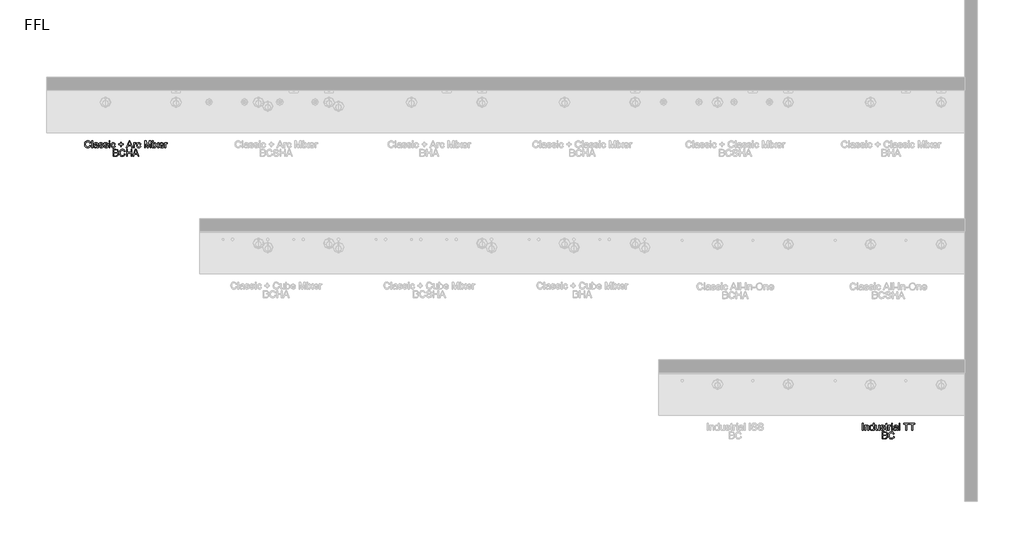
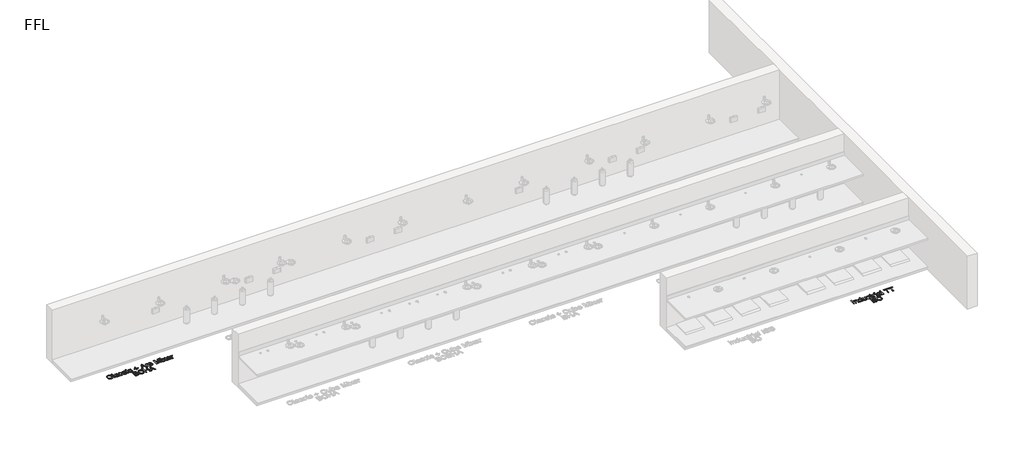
# One storey, part 5 of 13: 2 proxies.
"""IFC4 building model written with IfcOpenShell, lengths in millimetres."""

from ifc_helpers import new_model, si_unit, origin, origin_with_axes, place, context, project, spatial, polyline, outline, extrude, element, save

model = new_model("IFC4")

# Units and contexts
model_context = context("Model", 3, world=origin())
ifc_project = project(units=[si_unit("LENGTHUNIT", "METRE", prefix="MILLI")], contexts=[model_context])

# Site, building, storey
site = spatial("IfcSite", under=ifc_project)
building = spatial("IfcBuilding", under=site)
storey = spatial("IfcBuildingStorey", under=building, Name="FFL", Elevation=0.0)

# Proxies
placement = place(None, origin())
element("IfcBuildingElementProxy", 1, Name="150mm Arial", ObjectType="150mm Arial", at=placement, inside=storey, context=model_context, shape_type="SweptSolid", body=[
    extrude(outline(polyline([(10353.2380409, -2376.1981691), (10353.2380409, -2228.5058614), (10371.6995794, -2228.5058614), (10371.6995794, -2376.1981691), (10353.2380409, -2376.1981691)])), origin_with_axes(), (0.0, 0.0, 1.0), 5.0),
    extrude(outline(polyline([(10406.314964, -2376.1981691), (10406.314964, -2267.7366307), (10424.7765025, -2267.7366307), (10424.7765025, -2282.8808614), (10438.893089, -2269.7919191), (10458.1659255, -2265.4289383), (10475.5998198, -2268.9445633), (10487.4988582, -2278.1753326), (10493.033714, -2291.7510537), (10494.0072717, -2309.5996114), (10494.0072717, -2376.1981691), (10475.5457332, -2376.1981691), (10475.5457332, -2312.0875922), (10473.4183294, -2295.7534576), (10465.9003005, -2287.1176403), (10453.2260217, -2283.8904768), (10442.4132212, -2285.7023758), (10433.1959736, -2291.138073), (10426.8813703, -2301.6398758), (10424.7765025, -2318.6500922), (10424.7765025, -2376.1981691), (10406.314964, -2376.1981691)])), origin_with_axes(), (0.0, 0.0, 1.0), 5.0),
    extrude(outline(polyline([(10586.314964, -2376.1981691), (10586.314964, -2358.7823037), (10574.1004207, -2373.574972), (10557.2164063, -2378.5058614), (10545.2813102, -2376.7210057), (10534.3558294, -2371.3664383), (10525.1070313, -2362.8162581), (10518.2019832, -2351.4445633), (10513.9021034, -2337.7110898), (10512.4688102, -2322.075573), (10517.7512621, -2292.6885537), (10524.3498198, -2281.0329047), (10533.580589, -2272.4601883), (10544.744952, -2267.1867508), (10557.1442909, -2265.4289383), (10574.1635217, -2270.4589864), (10586.314964, -2283.5298999), (10586.314964, -2228.5058614), (10604.7765025, -2228.5058614), (10604.7765025, -2376.1981691), (10586.314964, -2376.1981691)]), holes=[polyline([(10530.9303486, -2322.0034576), (10533.0126803, -2338.7026763), (10539.2596755, -2350.5791787), (10548.3371996, -2357.6780369), (10558.9111178, -2360.044323), (10569.4805289, -2357.78621), (10578.3281852, -2351.011871), (10584.3182693, -2339.5951042), (10586.314964, -2323.4097076), (10584.2822116, -2305.7143951), (10578.1839544, -2293.4457653), (10569.1109376, -2286.2792989), (10558.1539063, -2283.8904768), (10547.471815, -2286.1846475), (10538.7188102, -2293.0671595), (10532.877464, -2304.8895754), (10530.9303486, -2322.0034576)])]), origin_with_axes(), (0.0, 0.0, 1.0), 5.0),
    extrude(outline(polyline([(10701.6995794, -2376.1981691), (10701.6995794, -2357.5563422), (10687.2404448, -2373.2684816), (10668.3822717, -2378.5058614), (10651.0204928, -2374.8279768), (10639.049339, -2365.5972076), (10633.5505409, -2352.0034576), (10632.4688102, -2334.839996), (10632.4688102, -2267.7366307), (10650.9303486, -2267.7366307), (10650.9303486, -2326.1500922), (10652.0481371, -2344.9722076), (10659.3498198, -2356.0238903), (10673.1058294, -2360.044323), (10688.5204928, -2355.933746), (10698.7067909, -2344.7378326), (10701.6995794, -2324.1669191), (10701.6995794, -2267.7366307), (10720.1611178, -2267.7366307), (10720.1611178, -2376.1981691), (10701.6995794, -2376.1981691)])), origin_with_axes(), (0.0, 0.0, 1.0), 5.0),
    extrude(outline(polyline([(10738.6226563, -2343.8904768), (10757.0841948, -2341.5827845), (10759.9958534, -2349.4794191), (10765.6298678, -2355.2847076), (10785.2091948, -2360.044323), (10804.0313102, -2355.6813422), (10810.1611178, -2345.4409576), (10803.9952525, -2337.1476883), (10784.9928486, -2331.8832653), (10757.1923678, -2322.8508133), (10745.0589544, -2312.3039383), (10740.9303486, -2297.4121114), (10744.2476563, -2283.6561018), (10753.2981371, -2273.1452845), (10765.0349159, -2267.6825441), (10780.9183294, -2265.4289383), (10803.3822717, -2269.0527364), (10817.6611178, -2278.8604287), (10824.0072717, -2295.4289383), (10805.5457332, -2297.7366307), (10798.6046275, -2287.5503326), (10782.3606371, -2283.8904768), (10764.6923678, -2287.388073), (10759.3918871, -2295.5371114), (10761.5914063, -2300.9097076), (10768.4784255, -2304.9842268), (10784.3798678, -2308.9145153), (10811.4772236, -2317.6044191), (10824.0613582, -2327.4481691), (10828.6226563, -2343.4938422), (10823.268089, -2361.1621114), (10807.8173678, -2373.980621), (10784.9567909, -2378.5058614), (10766.3420073, -2376.324371), (10752.7572717, -2369.7798999), (10743.6887621, -2358.9445633), (10738.6226563, -2343.8904768)])), origin_with_axes(), (0.0, 0.0, 1.0), 5.0),
    extrude(outline(polyline([(10888.6226563, -2360.8015345), (10890.9303486, -2376.7390345), (10877.1202525, -2378.5058614), (10861.6515025, -2375.4409576), (10853.9351563, -2367.4000922), (10851.6995794, -2346.450573), (10851.6995794, -2286.1981691), (10837.8534255, -2286.1981691), (10837.8534255, -2267.7366307), (10851.6995794, -2267.7366307), (10851.6995794, -2241.3784576), (10870.1611178, -2230.5250922), (10870.1611178, -2267.7366307), (10888.6226563, -2267.7366307), (10888.6226563, -2286.1981691), (10870.1611178, -2286.1981691), (10870.1611178, -2345.9097076), (10871.1346755, -2355.4289383), (10874.2897236, -2358.8003326), (10880.5817909, -2360.044323), (10888.6226563, -2360.8015345)])), origin_with_axes(), (0.0, 0.0, 1.0), 5.0),
    extrude(outline(polyline([(10907.0841948, -2376.1981691), (10907.0841948, -2267.7366307), (10923.2380409, -2267.7366307), (10923.2380409, -2283.7823037), (10934.7043871, -2268.9986499), (10946.2428486, -2265.4289383), (10964.7765025, -2271.1260537), (10958.6106371, -2287.6765345), (10945.6298678, -2283.8904768), (10935.1911659, -2287.5323037), (10928.5385217, -2297.6284576), (10925.5457332, -2319.1909576), (10925.5457332, -2376.1981691), (10907.0841948, -2376.1981691)])), origin_with_axes(), (0.0, 0.0, 1.0), 5.0),
    extrude(outline(polyline([(10976.314964, -2376.1981691), (10976.314964, -2267.7366307), (10994.7765025, -2267.7366307), (10994.7765025, -2376.1981691), (10976.314964, -2376.1981691)])), origin_with_axes(), (0.0, 0.0, 1.0), 5.0),
    extrude(outline(polyline([(10976.314964, -2246.9673999), (10976.314964, -2228.5058614), (10994.7765025, -2228.5058614), (10994.7765025, -2246.9673999), (10976.314964, -2246.9673999)])), origin_with_axes(), (0.0, 0.0, 1.0), 5.0),
    extrude(outline(polyline([(11091.6995794, -2362.3520153), (11073.7969352, -2374.8640345), (11054.0192909, -2378.5058614), (11038.5911058, -2376.3153566), (11027.2103967, -2369.7438422), (11020.1926683, -2359.7648758), (11017.8534255, -2347.3520153), (11021.3870794, -2332.7486499), (11030.6719352, -2322.1476883), (11043.5986178, -2316.089996), (11059.5721755, -2313.3135537), (11091.5914063, -2306.9673999), (11091.6995794, -2302.856823), (11090.4285457, -2294.6176403), (11086.6154448, -2289.2270153), (11078.0878005, -2285.2246114), (11066.2067909, -2283.8904768), (11047.5289063, -2287.4421595), (11038.6226563, -2300.044323), (11020.1611178, -2297.7366307), (11028.1478967, -2279.7077845), (11044.2296275, -2269.1428807), (11068.5865986, -2265.4289383), (11090.9603967, -2268.7101883), (11103.5986178, -2276.949371), (11109.2596755, -2289.4794191), (11110.1611178, -2305.6332653), (11110.1611178, -2328.6020153), (11111.0986178, -2360.6753326), (11114.7765025, -2376.1981691), (11096.314964, -2376.1981691), (11091.6995794, -2362.3520153)]), holes=[polyline([(11091.6995794, -2325.4289383), (11061.9159255, -2331.089996), (11046.0325121, -2334.0827845), (11038.8390025, -2338.950573), (11036.314964, -2346.0539383), (11041.8137621, -2356.0419191), (11057.9495794, -2360.044323), (11076.627464, -2355.6272557), (11088.6707332, -2344.9361499), (11091.5914063, -2330.6573037), (11091.6995794, -2325.4289383)])]), origin_with_axes(), (0.0, 0.0, 1.0), 5.0),
    extrude(outline(polyline([(11135.5457332, -2376.1981691), (11135.5457332, -2228.5058614), (11154.0072717, -2228.5058614), (11154.0072717, -2376.1981691), (11135.5457332, -2376.1981691)])), origin_with_axes(), (0.0, 0.0, 1.0), 5.0),
    extrude(outline(polyline([(11278.6226563, -2376.1981691), (11278.6226563, -2246.9673999), (11230.1611178, -2246.9673999), (11230.1611178, -2228.5058614), (11345.5457332, -2228.5058614), (11345.5457332, -2246.9673999), (11297.0841948, -2246.9673999), (11297.0841948, -2376.1981691), (11278.6226563, -2376.1981691)])), origin_with_axes(), (0.0, 0.0, 1.0), 5.0),
    extrude(outline(polyline([(11403.2380409, -2376.1981691), (11403.2380409, -2246.9673999), (11354.7765025, -2246.9673999), (11354.7765025, -2228.5058614), (11470.1611178, -2228.5058614), (11470.1611178, -2246.9673999), (11421.6995794, -2246.9673999), (11421.6995794, -2376.1981691), (11403.2380409, -2376.1981691)])), origin_with_axes(), (0.0, 0.0, 1.0), 5.0),
    extrude(outline(polyline([(10779.0072717, -2558.5058614), (10779.0072717, -2410.8135537), (10835.3654448, -2410.8135537), (10862.9676082, -2415.1585057), (10872.2434496, -2420.6708254), (10879.2656852, -2428.5178807), (10885.1611178, -2447.4121114), (10880.2031852, -2464.6657172), (10865.221214, -2477.7366307), (10875.682452, -2483.199371), (10883.4123198, -2491.5106691), (10888.1854568, -2502.1206451), (10889.7765025, -2514.4794191), (10885.4315505, -2534.3291787), (10874.6683294, -2548.4637941), (10858.6046275, -2555.9637941), (10834.9327525, -2558.5058614), (10779.0072717, -2558.5058614)]), holes=[polyline([(10797.4688102, -2540.044323), (10835.3293871, -2540.044323), (10849.0313102, -2539.3231691), (10860.6238582, -2535.3027364), (10868.3041467, -2527.0996114), (10871.314964, -2514.6597076), (10867.7813102, -2500.308746), (10856.3329928, -2491.7450441), (10833.5265025, -2489.2750922), (10797.4688102, -2489.2750922), (10797.4688102, -2540.044323)]), polyline([(10797.4688102, -2470.8135537), (10831.1827525, -2470.8135537), (10850.8702525, -2469.2270153), (10862.7152044, -2462.3940826), (10866.6995794, -2450.3688422), (10862.9856371, -2438.325573), (10852.3486178, -2431.2041787), (10828.6226563, -2429.2750922), (10797.4688102, -2429.2750922), (10797.4688102, -2470.8135537)])]), origin_with_axes(), (0.0, 0.0, 1.0), 5.0),
    extrude(outline(polyline([(11019.0072717, -2506.0058614), (11037.4688102, -2510.7654768), (11028.9501803, -2532.2783975), (11015.5817909, -2547.9950441), (10998.0216948, -2557.6089263), (10976.9279448, -2560.8135537), (10955.5141828, -2558.3886739), (10938.5084736, -2551.1140345), (10925.4736178, -2539.2420393), (10915.9724159, -2523.0250922), (10910.1716347, -2503.9595874), (10908.2380409, -2483.5419191), (10910.4240385, -2462.0064624), (10916.9820313, -2443.4097076), (10927.5694712, -2428.3420994), (10941.8438102, -2417.3940826), (10958.7728967, -2410.7279167), (10977.3245794, -2408.5058614), (10997.5664664, -2411.3814624), (11014.3017428, -2420.0082653), (11027.0075722, -2433.8544191), (11035.1611178, -2452.388073), (11016.6995794, -2456.7871114), (11010.299339, -2443.3240706), (11001.5553486, -2434.0887941), (10990.3594352, -2428.7477484), (10976.6034255, -2426.9673999), (10960.7470553, -2428.9415585), (10947.721214, -2434.8640345), (10937.8368991, -2444.1128326), (10931.4051082, -2456.0659576), (10926.6995794, -2483.5058614), (10932.2704928, -2515.308746), (10939.3918871, -2527.1852484), (10949.6142428, -2535.6272557), (10961.869351, -2540.6708254), (10975.0890025, -2542.3520153), (10990.4991587, -2540.0623518), (11003.3402044, -2533.1933614), (11013.0352164, -2521.8171595), (11019.0072717, -2506.0058614)])), origin_with_axes(), (0.0, 0.0, 1.0), 5.0),
])
element("IfcBuildingElementProxy", 2, Name="150mm Arial", ObjectType="150mm Arial", at=placement, inside=storey, context=model_context, shape_type="SweptSolid", body=[
    extrude(outline(polyline([(-6051.580362, 3676.3018309), (-6033.1188235, 3671.5422155), (-6041.6374533, 3650.0292948), (-6055.0058427, 3634.3126482), (-6072.5659389, 3624.698766), (-6093.6596889, 3621.4941386), (-6115.0734509, 3623.9190184), (-6132.07916, 3631.1936578), (-6145.1140158, 3643.065653), (-6154.6152177, 3659.2826001), (-6160.415999, 3678.3481049), (-6162.3495927, 3698.7657732), (-6160.1635951, 3720.3012299), (-6153.6056024, 3738.8979847), (-6143.0181625, 3753.9655929), (-6128.7438235, 3764.9136097), (-6111.814737, 3771.5797756), (-6093.2630543, 3773.8018309), (-6073.0211673, 3770.9262299), (-6056.2858908, 3762.299427), (-6043.5800615, 3748.4532732), (-6035.4265158, 3729.9196193), (-6053.8880543, 3725.5205809), (-6060.2882947, 3738.9836217), (-6069.032285, 3748.2188982), (-6080.2281985, 3753.5599439), (-6093.9842081, 3755.3402924), (-6109.8405783, 3753.3661338), (-6122.8664197, 3747.4436578), (-6132.7507346, 3738.1948597), (-6139.1825254, 3726.2417347), (-6143.8880543, 3698.8018309), (-6138.3171408, 3666.9989463), (-6131.1957466, 3655.1224439), (-6120.9733908, 3646.6804367), (-6108.7182826, 3641.6368669), (-6095.4986312, 3639.955677), (-6080.088475, 3642.2453405), (-6067.2474293, 3649.1143309), (-6057.5524173, 3660.4905328), (-6051.580362, 3676.3018309)])), origin_with_axes(), (0.0, 0.0, 1.0), 5.0),
    extrude(outline(polyline([(-6010.0419004, 3623.8018309), (-6010.0419004, 3771.4941386), (-5991.580362, 3771.4941386), (-5991.580362, 3623.8018309), (-6010.0419004, 3623.8018309)])), origin_with_axes(), (0.0, 0.0, 1.0), 5.0),
    extrude(outline(polyline([(-5894.657285, 3637.6479847), (-5912.5599293, 3625.1359655), (-5932.3375735, 3621.4941386), (-5947.7657586, 3623.6846434), (-5959.1464677, 3630.2561578), (-5966.1641961, 3640.2351242), (-5968.5034389, 3652.6479847), (-5964.969785, 3667.2513501), (-5955.6849293, 3677.8523117), (-5942.7582466, 3683.910004), (-5926.7846889, 3686.6864463), (-5894.7654581, 3693.0326001), (-5894.657285, 3697.143177), (-5895.9283187, 3705.3823597), (-5899.7414197, 3710.7729847), (-5908.2690639, 3714.7753886), (-5920.1500735, 3716.1095232), (-5938.8279581, 3712.5578405), (-5947.7342081, 3699.955677), (-5966.1957466, 3702.2633693), (-5958.2089677, 3720.2922155), (-5942.127237, 3730.8571193), (-5917.7702658, 3734.5710617), (-5895.3964677, 3731.2898117), (-5882.7582466, 3723.050629), (-5877.0971889, 3710.5205809), (-5876.1957466, 3694.3667347), (-5876.1957466, 3671.3979847), (-5875.2582466, 3639.3246674), (-5871.580362, 3623.8018309), (-5890.0419004, 3623.8018309), (-5894.657285, 3637.6479847)]), holes=[polyline([(-5894.657285, 3674.5710617), (-5924.4409389, 3668.910004), (-5940.3243524, 3665.9172155), (-5947.517862, 3661.049427), (-5950.0419004, 3653.9460617), (-5944.5431024, 3643.9580809), (-5928.407285, 3639.955677), (-5909.7294004, 3644.3727443), (-5897.6861312, 3655.0638501), (-5894.7654581, 3669.3426963), (-5894.657285, 3674.5710617)])]), origin_with_axes(), (0.0, 0.0, 1.0), 5.0),
    extrude(outline(polyline([(-5857.7342081, 3656.1095232), (-5839.2726697, 3658.4172155), (-5836.361011, 3650.5205809), (-5830.7269966, 3644.7152924), (-5811.1476697, 3639.955677), (-5792.3255543, 3644.3186578), (-5786.1957466, 3654.5590424), (-5792.361612, 3662.8523117), (-5811.3640158, 3668.1167347), (-5839.1644966, 3677.1491867), (-5851.29791, 3687.6960617), (-5855.4265158, 3702.5878886), (-5852.1092081, 3716.3438982), (-5843.0587274, 3726.8547155), (-5831.3219485, 3732.3174559), (-5815.438535, 3734.5710617), (-5792.9745927, 3730.9472636), (-5778.6957466, 3721.1395713), (-5772.3495927, 3704.5710617), (-5790.8111312, 3702.2633693), (-5797.752237, 3712.4496674), (-5813.9962274, 3716.1095232), (-5831.6644966, 3712.611927), (-5836.9649774, 3704.4628886), (-5834.7654581, 3699.0902924), (-5827.8784389, 3695.0157732), (-5811.9769966, 3691.0854847), (-5784.8796408, 3682.3955809), (-5772.2955062, 3672.5518309), (-5767.7342081, 3656.5061578), (-5773.0887754, 3638.8378886), (-5788.5394966, 3626.019379), (-5811.4000735, 3621.4941386), (-5830.0148572, 3623.675629), (-5843.5995927, 3630.2201001), (-5852.6681024, 3641.0554367), (-5857.7342081, 3656.1095232)])), origin_with_axes(), (0.0, 0.0, 1.0), 5.0),
    extrude(outline(polyline([(-5753.8880543, 3656.1095232), (-5735.4265158, 3658.4172155), (-5732.5148572, 3650.5205809), (-5726.8808427, 3644.7152924), (-5707.3015158, 3639.955677), (-5688.4794004, 3644.3186578), (-5682.3495927, 3654.5590424), (-5688.5154581, 3662.8523117), (-5707.517862, 3668.1167347), (-5735.3183427, 3677.1491867), (-5747.4517562, 3687.6960617), (-5751.580362, 3702.5878886), (-5748.2630543, 3716.3438982), (-5739.2125735, 3726.8547155), (-5727.4757947, 3732.3174559), (-5711.5923812, 3734.5710617), (-5689.1284389, 3730.9472636), (-5674.8495927, 3721.1395713), (-5668.5034389, 3704.5710617), (-5686.9649774, 3702.2633693), (-5693.9060831, 3712.4496674), (-5710.1500735, 3716.1095232), (-5727.8183427, 3712.611927), (-5733.1188235, 3704.4628886), (-5730.9193043, 3699.0902924), (-5724.032285, 3695.0157732), (-5708.1308427, 3691.0854847), (-5681.033487, 3682.3955809), (-5668.4493524, 3672.5518309), (-5663.8880543, 3656.5061578), (-5669.2426216, 3638.8378886), (-5684.6933427, 3626.019379), (-5707.5539197, 3621.4941386), (-5726.1687033, 3623.675629), (-5739.7534389, 3630.2201001), (-5748.8219485, 3641.0554367), (-5753.8880543, 3656.1095232)])), origin_with_axes(), (0.0, 0.0, 1.0), 5.0),
    extrude(outline(polyline([(-5643.1188235, 3623.8018309), (-5643.1188235, 3732.2633693), (-5624.657285, 3732.2633693), (-5624.657285, 3623.8018309), (-5643.1188235, 3623.8018309)])), origin_with_axes(), (0.0, 0.0, 1.0), 5.0),
    extrude(outline(polyline([(-5643.1188235, 3753.0326001), (-5643.1188235, 3771.4941386), (-5624.657285, 3771.4941386), (-5624.657285, 3753.0326001), (-5643.1188235, 3753.0326001)])), origin_with_axes(), (0.0, 0.0, 1.0), 5.0),
    extrude(outline(polyline([(-5527.7342081, 3663.0326001), (-5509.2726697, 3660.7249078), (-5514.4199052, 3644.3051362), (-5524.0923812, 3631.8967828), (-5537.3796408, 3624.0947996), (-5553.3712274, 3621.4941386), (-5573.009148, 3625.1224439), (-5588.3652177, 3636.0073597), (-5598.2765759, 3653.6711217), (-5601.580362, 3677.6359655), (-5595.9373331, 3708.3030328), (-5588.8159389, 3719.8009294), (-5578.7378139, 3728.0085617), (-5566.681023, 3732.9304367), (-5553.6236312, 3734.5710617), (-5538.0241721, 3732.3174559), (-5525.5527177, 3725.5566386), (-5516.6059028, 3714.6491867), (-5511.580362, 3699.955677), (-5530.0419004, 3697.6479847), (-5538.6056024, 3711.4761097), (-5553.4794004, 3716.1095232), (-5565.4099894, 3713.8288742), (-5574.8796408, 3706.986927), (-5581.0590278, 3695.2140905), (-5583.1188235, 3678.1407732), (-5581.1041, 3660.8375881), (-5575.0599293, 3649.0241867), (-5565.7615519, 3642.2228044), (-5553.9842081, 3639.955677), (-5544.4244125, 3641.3709415), (-5536.5863716, 3645.6167347), (-5530.884749, 3652.8012299), (-5527.7342081, 3663.0326001)])), origin_with_axes(), (0.0, 0.0, 1.0), 5.0),
    extrude(outline(polyline([(-5398.5034389, 3646.878754), (-5398.5034389, 3686.1095232), (-5437.7342081, 3686.1095232), (-5437.7342081, 3704.5710617), (-5398.5034389, 3704.5710617), (-5398.5034389, 3743.8018309), (-5380.0419004, 3743.8018309), (-5380.0419004, 3704.5710617), (-5340.8111312, 3704.5710617), (-5340.8111312, 3686.1095232), (-5380.0419004, 3686.1095232), (-5380.0419004, 3646.878754), (-5398.5034389, 3646.878754)])), origin_with_axes(), (0.0, 0.0, 1.0), 5.0),
    extrude(outline(polyline([(-5272.626035, 3623.8018309), (-5213.6717081, 3771.4941386), (-5197.9505543, 3771.4941386), (-5138.9962274, 3623.8018309), (-5158.5034389, 3623.8018309), (-5175.4144966, 3669.955677), (-5236.2438235, 3669.955677), (-5253.1188235, 3623.8018309), (-5272.626035, 3623.8018309)]), holes=[polyline([(-5229.4649774, 3688.4172155), (-5182.157285, 3688.4172155), (-5195.4625735, 3724.7273117), (-5205.8111312, 3753.0326001), (-5215.0058427, 3727.9003886), (-5229.4649774, 3688.4172155)])]), origin_with_axes(), (0.0, 0.0, 1.0), 5.0),
    extrude(outline(polyline([(-5121.580362, 3623.8018309), (-5121.580362, 3732.2633693), (-5105.4265158, 3732.2633693), (-5105.4265158, 3716.2176963), (-5093.9601697, 3731.0013501), (-5082.4217081, 3734.5710617), (-5063.8880543, 3728.8739463), (-5070.0539197, 3712.3234655), (-5083.0346889, 3716.1095232), (-5093.4733908, 3712.4676963), (-5100.126035, 3702.3715424), (-5103.1188235, 3680.8090424), (-5103.1188235, 3623.8018309), (-5121.580362, 3623.8018309)])), origin_with_axes(), (0.0, 0.0, 1.0), 5.0),
    extrude(outline(polyline([(-4983.1188235, 3663.0326001), (-4964.657285, 3660.7249078), (-4969.8045206, 3644.3051362), (-4979.4769966, 3631.8967828), (-4992.7642562, 3624.0947996), (-5008.7558427, 3621.4941386), (-5028.3937634, 3625.1224439), (-5043.7498331, 3636.0073597), (-5053.6611913, 3653.6711217), (-5056.9649774, 3677.6359655), (-5051.3219485, 3708.3030328), (-5044.2005543, 3719.8009294), (-5034.1224293, 3728.0085617), (-5022.0656384, 3732.9304367), (-5009.0082466, 3734.5710617), (-4993.4087875, 3732.3174559), (-4980.9373331, 3725.5566386), (-4971.9905182, 3714.6491867), (-4966.9649774, 3699.955677), (-4985.4265158, 3697.6479847), (-4993.9902177, 3711.4761097), (-5008.8640158, 3716.1095232), (-5020.7946048, 3713.8288742), (-5030.2642562, 3706.986927), (-5036.4436432, 3695.2140905), (-5038.5034389, 3678.1407732), (-5036.4887153, 3660.8375881), (-5030.4445447, 3649.0241867), (-5021.1461673, 3642.2228044), (-5009.3688235, 3639.955677), (-4999.8090278, 3641.3709415), (-4991.970987, 3645.6167347), (-4986.2693644, 3652.8012299), (-4983.1188235, 3663.0326001)])), origin_with_axes(), (0.0, 0.0, 1.0), 5.0),
    extrude(outline(polyline([(-4888.5034389, 3623.8018309), (-4888.5034389, 3771.4941386), (-4856.736612, 3771.4941386), (-4826.5202658, 3667.3955809), (-4820.4265158, 3645.6527924), (-4813.8279581, 3669.1984655), (-4784.1164197, 3771.4941386), (-4752.3495927, 3771.4941386), (-4752.3495927, 3623.8018309), (-4770.8111312, 3623.8018309), (-4770.8111312, 3753.0326001), (-4807.9144966, 3623.8018309), (-4832.938535, 3623.8018309), (-4870.0419004, 3753.0326001), (-4870.0419004, 3623.8018309), (-4888.5034389, 3623.8018309)])), origin_with_axes(), (0.0, 0.0, 1.0), 5.0),
    extrude(outline(polyline([(-4722.3495927, 3753.0326001), (-4722.3495927, 3771.4941386), (-4703.8880543, 3771.4941386), (-4703.8880543, 3753.0326001), (-4722.3495927, 3753.0326001)])), origin_with_axes(), (0.0, 0.0, 1.0), 5.0),
    extrude(outline(polyline([(-4722.3495927, 3623.8018309), (-4722.3495927, 3732.2633693), (-4703.8880543, 3732.2633693), (-4703.8880543, 3623.8018309), (-4722.3495927, 3623.8018309)])), origin_with_axes(), (0.0, 0.0, 1.0), 5.0),
    extrude(outline(polyline([(-4687.7342081, 3623.8018309), (-4648.2870927, 3678.3210617), (-4685.4265158, 3732.2633693), (-4663.2149774, 3732.2633693), (-4645.2943043, 3706.3018309), (-4636.9289197, 3694.0422155), (-4629.6813235, 3704.066254), (-4609.2726697, 3732.2633693), (-4587.0611312, 3732.2633693), (-4626.0755543, 3678.3210617), (-4588.5034389, 3623.8018309), (-4610.7149774, 3623.8018309), (-4633.3231504, 3656.5782732), (-4637.469785, 3662.5638501), (-4665.5226697, 3623.8018309), (-4687.7342081, 3623.8018309)])), origin_with_axes(), (0.0, 0.0, 1.0), 5.0),
    extrude(outline(polyline([(-4496.4120927, 3656.1095232), (-4478.3111312, 3653.8018309), (-4484.8330663, 3640.1630088), (-4495.2402177, 3629.9676963), (-4509.2982105, 3623.612528), (-4526.7726697, 3621.4941386), (-4548.4343283, 3625.1494871), (-4565.1019966, 3636.1155328), (-4575.7300014, 3653.6801362), (-4579.2726697, 3677.1311578), (-4575.6939437, 3701.3709415), (-4564.9577658, 3719.4989463), (-4548.5154581, 3730.8030328), (-4527.8183427, 3734.5710617), (-4507.7657586, 3730.8120472), (-4491.7426216, 3719.535004), (-4481.2363115, 3701.4430568), (-4477.7342081, 3677.2393309), (-4477.8423812, 3672.2633693), (-4560.8111312, 3672.2633693), (-4557.6155182, 3658.4442588), (-4550.1921408, 3648.285004), (-4539.478499, 3642.0380088), (-4526.4120927, 3639.955677), (-4508.3111312, 3643.8138501), (-4496.4120927, 3656.1095232)]), holes=[polyline([(-4560.8111312, 3690.7249078), (-4496.1957466, 3690.7249078), (-4498.6927418, 3700.4785136), (-4503.5875735, 3707.455677), (-4514.3507947, 3713.9460617), (-4527.8904581, 3716.1095232), (-4540.3348692, 3714.3832612), (-4550.6248331, 3709.2044751), (-4557.7777778, 3701.1320592), (-4560.8111312, 3690.7249078)])]), origin_with_axes(), (0.0, 0.0, 1.0), 5.0),
    extrude(outline(polyline([(-4459.2726697, 3623.8018309), (-4459.2726697, 3732.2633693), (-4443.1188235, 3732.2633693), (-4443.1188235, 3716.2176963), (-4431.6524774, 3731.0013501), (-4420.1140158, 3734.5710617), (-4401.580362, 3728.8739463), (-4407.7462274, 3712.3234655), (-4420.7269966, 3716.1095232), (-4431.1656985, 3712.4676963), (-4437.8183427, 3702.3715424), (-4440.8111312, 3680.8090424), (-4440.8111312, 3623.8018309), (-4459.2726697, 3623.8018309)])), origin_with_axes(), (0.0, 0.0, 1.0), 5.0),
    extrude(outline(polyline([(-5555.4265158, 3441.4941386), (-5555.4265158, 3589.1864463), (-5499.0683427, 3589.1864463), (-5471.4661793, 3584.8414943), (-5462.1903379, 3579.3291746), (-5455.1681024, 3571.4821193), (-5449.2726697, 3552.5878886), (-5454.2306024, 3535.3342828), (-5469.2125735, 3522.2633693), (-5458.7513355, 3516.800629), (-5451.0214677, 3508.4893309), (-5446.2483307, 3497.8793549), (-5444.657285, 3485.5205809), (-5449.002237, 3465.6708213), (-5459.7654581, 3451.5362059), (-5475.82916, 3444.0362059), (-5499.501035, 3441.4941386), (-5555.4265158, 3441.4941386)]), holes=[polyline([(-5536.9649774, 3529.1864463), (-5503.251035, 3529.1864463), (-5483.563535, 3530.7729847), (-5471.7185831, 3537.6059174), (-5467.7342081, 3549.6311578), (-5471.4481504, 3561.674427), (-5482.0851697, 3568.7958213), (-5505.8111312, 3570.7249078), (-5536.9649774, 3570.7249078), (-5536.9649774, 3529.1864463)]), polyline([(-5536.9649774, 3459.955677), (-5499.1044004, 3459.955677), (-5485.4024774, 3460.6768309), (-5473.8099293, 3464.6972636), (-5466.1296408, 3472.9003886), (-5463.1188235, 3485.3402924), (-5466.6524774, 3499.691254), (-5478.1007947, 3508.2549559), (-5500.907285, 3510.7249078), (-5536.9649774, 3510.7249078), (-5536.9649774, 3459.955677)])]), origin_with_axes(), (0.0, 0.0, 1.0), 5.0),
    extrude(outline(polyline([(-5315.4265158, 3493.9941386), (-5296.9649774, 3489.2345232), (-5305.4836072, 3467.7216025), (-5318.8519966, 3452.0049559), (-5336.4120927, 3442.3910737), (-5357.5058427, 3439.1864463), (-5378.9196048, 3441.6113261), (-5395.9253139, 3448.8859655), (-5408.9601697, 3460.7579607), (-5418.4613716, 3476.9749078), (-5424.2621528, 3496.0404126), (-5426.1957466, 3516.4580809), (-5424.009749, 3537.9935376), (-5417.4517562, 3556.5902924), (-5406.8643163, 3571.6579006), (-5392.5899774, 3582.6059174), (-5375.6608908, 3589.2720833), (-5357.1092081, 3591.4941386), (-5336.8673211, 3588.6185376), (-5320.1320447, 3579.9917347), (-5307.4262153, 3566.1455809), (-5299.2726697, 3547.611927), (-5317.7342081, 3543.2128886), (-5324.1344485, 3556.6759294), (-5332.8784389, 3565.9112059), (-5344.0743524, 3571.2522516), (-5357.830362, 3573.0326001), (-5373.6867322, 3571.0584415), (-5386.7125735, 3565.1359655), (-5396.5968884, 3555.8871674), (-5403.0286793, 3543.9340424), (-5407.7342081, 3516.4941386), (-5402.1632947, 3484.691254), (-5395.0419004, 3472.8147516), (-5384.8195447, 3464.3727443), (-5372.5644365, 3459.3291746), (-5359.344785, 3457.6479847), (-5343.9346288, 3459.9376482), (-5331.0935831, 3466.8066386), (-5321.3985711, 3478.1828405), (-5315.4265158, 3493.9941386)])), origin_with_axes(), (0.0, 0.0, 1.0), 5.0),
    extrude(outline(polyline([(-5271.580362, 3441.4941386), (-5271.580362, 3589.1864463), (-5253.1188235, 3589.1864463), (-5253.1188235, 3529.1864463), (-5174.657285, 3529.1864463), (-5174.657285, 3589.1864463), (-5156.1957466, 3589.1864463), (-5156.1957466, 3441.4941386), (-5174.657285, 3441.4941386), (-5174.657285, 3510.7249078), (-5253.1188235, 3510.7249078), (-5253.1188235, 3441.4941386), (-5271.580362, 3441.4941386)])), origin_with_axes(), (0.0, 0.0, 1.0), 5.0),
    extrude(outline(polyline([(-5141.0875735, 3441.4941386), (-5082.1332466, 3589.1864463), (-5066.4120927, 3589.1864463), (-5007.4577658, 3441.4941386), (-5026.9649774, 3441.4941386), (-5043.876035, 3487.6479847), (-5104.705362, 3487.6479847), (-5121.580362, 3441.4941386), (-5141.0875735, 3441.4941386)]), holes=[polyline([(-5097.9265158, 3506.1095232), (-5050.6188235, 3506.1095232), (-5063.924112, 3542.4196193), (-5074.2726697, 3570.7249078), (-5083.4673812, 3545.5926963), (-5097.9265158, 3506.1095232)])]), origin_with_axes(), (0.0, 0.0, 1.0), 5.0),
])

save(model, "model.ifc")
